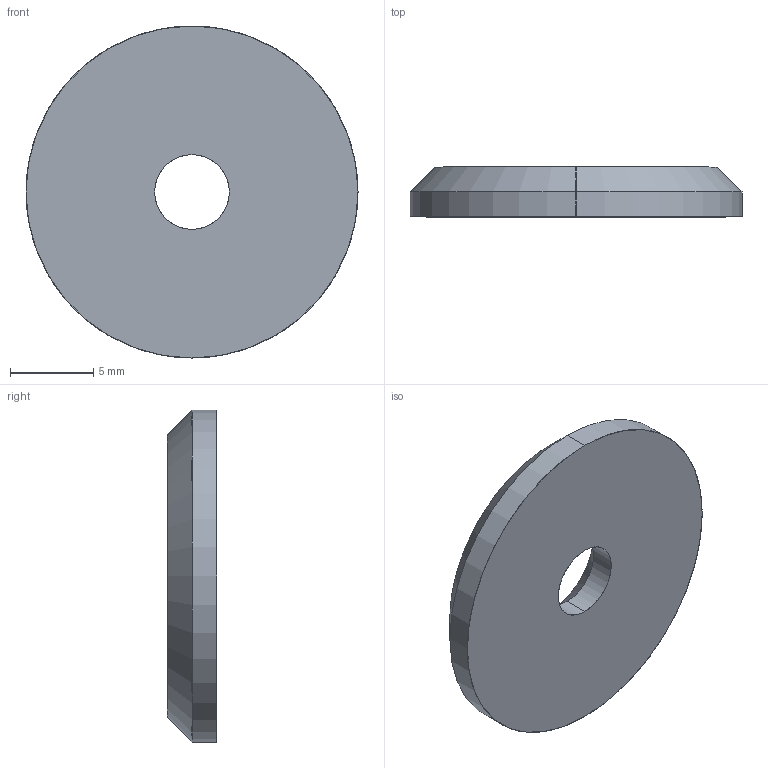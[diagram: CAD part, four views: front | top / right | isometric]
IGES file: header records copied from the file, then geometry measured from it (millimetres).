
Start section: SolidWorks IGES file using analytic representation for surfaces
Global section: file name: C:\Documents and Settings\IANO\Desktop\Temp File\Process pending\EXISTING\36720_v2\36720_v2_20170629_IGES\36720.W0020.igs; native system: SolidWorks 2009; preprocessor: SolidWorks 2009; author: IANO; date: 170627.110753; units: millimetre
Bounding box: 20 x 3 x 20 mm (x, y, z)
Surface area: 759.8 mm2 (no closed solid volume)
Topology: 0 solids, 0 shells, 10 faces, 160 edges, 160 vertices
Faces by surface type: revolution 8, bspline 2
